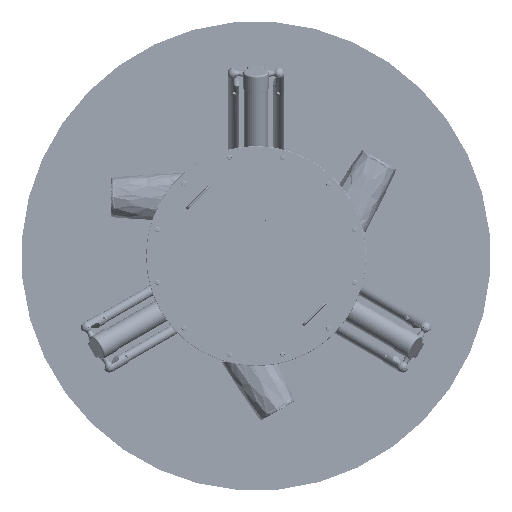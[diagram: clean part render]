
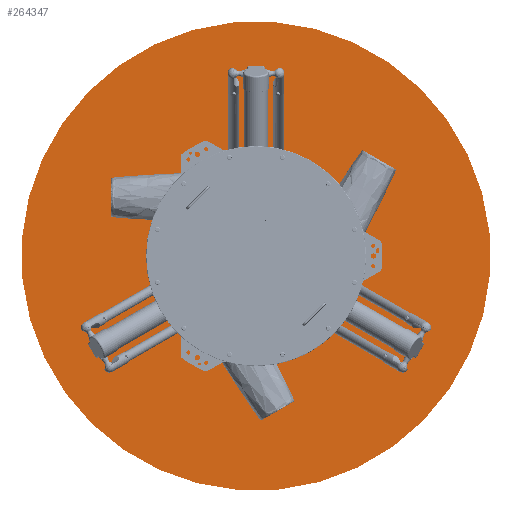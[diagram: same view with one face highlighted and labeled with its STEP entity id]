
A CAD part, front view. The second image highlights one B-rep face of the part: STEP entity #264347.
In plain terms, the highlighted planar face has unit normal (0, -1, 0) as drawn and (0, 1, 0) by its records, which use the part's own axes.
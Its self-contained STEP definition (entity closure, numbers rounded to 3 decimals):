
#19186 = DIRECTION ( 'NONE',  ( 0., 0., 1. ) ) ;
#26955 = FACE_OUTER_BOUND ( 'NONE', #333968, .T. ) ;
#74375 = ORIENTED_EDGE ( 'NONE', *, *, #316242, .F. ) ;
#84070 = PLANE ( 'NONE',  #338332 ) ;
#133089 = DIRECTION ( 'NONE',  ( 0., 0., -1. ) ) ;
#249586 = DIRECTION ( 'NONE',  ( 0., 1., 0. ) ) ;
#264347 = ADVANCED_FACE ( 'NONE', ( #26955 ), #84070, .T. ) ;
#266777 = CARTESIAN_POINT ( 'NONE',  ( 0., 390., 0. ) ) ;
#284238 = CARTESIAN_POINT ( 'NONE',  ( 0., 390., -800. ) ) ;
#316242 = EDGE_CURVE ( 'NONE', #380938, #380938, #380668, .T. ) ;
#330153 = DIRECTION ( 'NONE',  ( 0., -1., 0. ) ) ;
#333968 = EDGE_LOOP ( 'NONE', ( #74375 ) ) ;
#338332 = AXIS2_PLACEMENT_3D ( 'NONE', #413915, #249586, #19186 ) ;
#380668 = CIRCLE ( 'NONE', #417739, 800. ) ;
#380938 = VERTEX_POINT ( 'NONE', #284238 ) ;
#413915 = CARTESIAN_POINT ( 'NONE',  ( 0., 390., 0. ) ) ;
#417739 = AXIS2_PLACEMENT_3D ( 'NONE', #266777, #330153, #133089 ) ;
